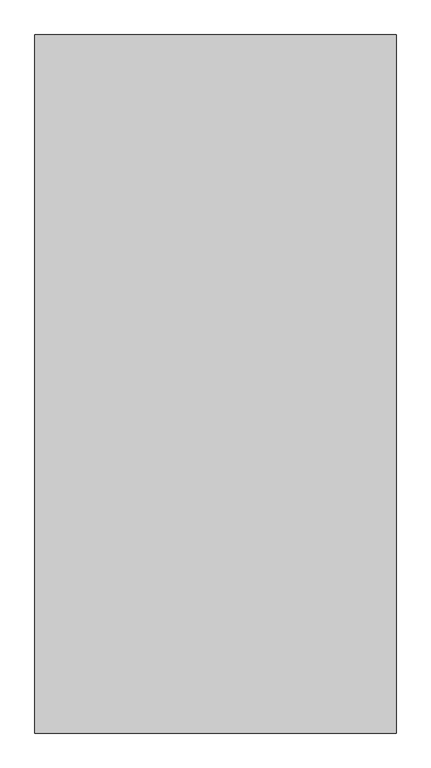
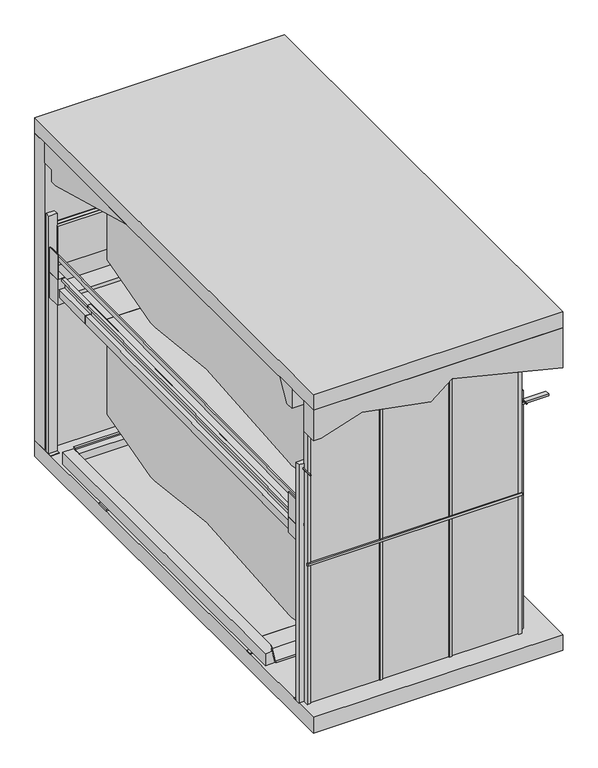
"""IFC4 building model written with IfcOpenShell, lengths in millimetres: proxy geometry, TrendVario 6200+ : TrendVario 6200+."""

from ifc_helpers import new_model, si_unit, point, frame, frame_2d, origin, origin_with_axes, place, context, project, spatial, polyline, circle_curve, trimmed, segment, composite_curve, outline, extrude, faceted_brep, source, transform, mapped, element, save
from ifc_brep_helpers import plane_surface, cylinder_surface, spline_surface, advanced_brep


def generic_models_2af5762d(model_context):
    return source(origin(), model_context, "Body", "SolidModel", [
        extrude(outline(composite_curve([segment(trimmed(circle_curve(frame_2d((2650.0, 5300.0602659)), 6.0), [point((2650.0, 5294.0602659))], [point((2650.0, 5306.0602659))], False, "CARTESIAN"), True, "CONTINUOUS"), segment(trimmed(circle_curve(frame_2d((2650.0, 5300.0602659)), 6.0), [point((2650.0, 5306.0602659))], [point((2650.0, 5294.0602659))], False, "CARTESIAN"), True, "CONTINUOUS")], self_intersect=False)), frame((0.0, 0.0, -150.0), z_axis=(0.0, 0.0, 1.0), x_axis=(1.0, 0.0, 0.0)), (0.0, 0.0, 1.0), 150.0),
        extrude(outline(composite_curve([segment(trimmed(circle_curve(frame_2d((50.0, 5300.0602653)), 6.0), [point((44.0, 5300.0602653))], [point((56.0, 5300.0602653))], False, "CARTESIAN"), True, "CONTINUOUS"), segment(trimmed(circle_curve(frame_2d((50.0, 5300.0602653)), 6.0), [point((56.0, 5300.0602653))], [point((44.0, 5300.0602653))], False, "CARTESIAN"), True, "CONTINUOUS")], self_intersect=False)), frame((0.0, 0.0, -150.0), z_axis=(0.0, 0.0, 1.0), x_axis=(1.0, 0.0, 0.0)), (0.0, 0.0, 1.0), 150.0),
        extrude(outline(composite_curve([segment(trimmed(circle_curve(frame_2d((2650.0, 170.0)), 6.0), [point((2650.0, 164.0))], [point((2650.0, 176.0))], False, "CARTESIAN"), True, "CONTINUOUS"), segment(trimmed(circle_curve(frame_2d((2650.0, 170.0)), 6.0), [point((2650.0, 176.0))], [point((2650.0, 164.0))], False, "CARTESIAN"), True, "CONTINUOUS")], self_intersect=False)), frame((0.0, 0.0, -150.0), z_axis=(0.0, 0.0, 1.0), x_axis=(1.0, 0.0, 0.0)), (0.0, 0.0, 1.0), 150.0),
        extrude(outline(composite_curve([segment(trimmed(circle_curve(frame_2d((50.0, 170.0)), 6.0), [point((44.0, 170.0))], [point((56.0, 170.0))], False, "CARTESIAN"), True, "CONTINUOUS"), segment(trimmed(circle_curve(frame_2d((50.0, 170.0)), 6.0), [point((56.0, 170.0))], [point((44.0, 170.0))], False, "CARTESIAN"), True, "CONTINUOUS")], self_intersect=False)), frame((0.0, 0.0, -150.0), z_axis=(0.0, 0.0, 1.0), x_axis=(1.0, 0.0, 0.0)), (0.0, 0.0, 1.0), 150.0),
        extrude(outline(composite_curve([segment(trimmed(circle_curve(frame_2d((2965.0, 2650.0)), 6.0), [point((2965.0, 2644.0))], [point((2965.0, 2656.0))], False, "CARTESIAN"), True, "CONTINUOUS"), segment(trimmed(circle_curve(frame_2d((2965.0, 2650.0)), 6.0), [point((2965.0, 2656.0))], [point((2965.0, 2644.0))], False, "CARTESIAN"), True, "CONTINUOUS")], self_intersect=False)), frame((0.0, -50.0, 0.0), z_axis=(0.0, 1.0, 0.0), x_axis=(0.0, 0.0, 1.0)), (0.0, 0.0, 1.0), 150.0),
        extrude(outline(composite_curve([segment(trimmed(circle_curve(frame_2d((2965.0, 50.0)), 6.0), [point((2965.0, 44.0))], [point((2965.0, 56.0))], False, "CARTESIAN"), True, "CONTINUOUS"), segment(trimmed(circle_curve(frame_2d((2965.0, 50.0)), 6.0), [point((2965.0, 56.0))], [point((2965.0, 44.0))], False, "CARTESIAN"), True, "CONTINUOUS")], self_intersect=False)), frame((0.0, -50.0, 0.0), z_axis=(0.0, 1.0, 0.0), x_axis=(0.0, 0.0, 1.0)), (0.0, 0.0, 1.0), 150.0),
        extrude(outline(composite_curve([segment(trimmed(circle_curve(frame_2d((2965.0, 50.0)), 6.0), [point((2965.0, 44.0))], [point((2965.0, 56.0))], False, "CARTESIAN"), True, "CONTINUOUS"), segment(trimmed(circle_curve(frame_2d((2965.0, 50.0)), 6.0), [point((2965.0, 56.0))], [point((2965.0, 44.0))], False, "CARTESIAN"), True, "CONTINUOUS")], self_intersect=False)), frame((0.0, 5369.5816653, 0.0), z_axis=(0.0, 1.0, 0.0), x_axis=(0.0, 0.0, 1.0)), (0.0, 0.0, 1.0), 150.0),
        extrude(outline(composite_curve([segment(trimmed(circle_curve(frame_2d((2965.0, 2650.0)), 6.0), [point((2965.0, 2644.0))], [point((2965.0, 2656.0))], False, "CARTESIAN"), True, "CONTINUOUS"), segment(trimmed(circle_curve(frame_2d((2965.0, 2650.0)), 6.0), [point((2965.0, 2656.0))], [point((2965.0, 2644.0))], False, "CARTESIAN"), True, "CONTINUOUS")], self_intersect=False)), frame((0.0, 5369.6045102, 0.0), z_axis=(0.0, 1.0, 0.0), x_axis=(0.0, 0.0, 1.0)), (0.0, 0.0, 1.0), 150.0),
        extrude(outline(polyline([(0.0, -60.0), (0.0, 0.0), (4430.0, 0.0), (4430.0, -60.0), (0.0, -60.0)])), frame((2611.0, 171.9869847, 2038.264563), z_axis=(0.0, -0.008726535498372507, 0.9999619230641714), x_axis=(0.0, 0.9999619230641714, 0.008726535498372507)), (0.0, 0.0, 1.0), 100.0),
        extrude(outline(polyline([(0.0, -19.0), (0.0, 0.0), (4440.0, 0.0), (4440.0, -19.0), (0.0, -19.0)])), frame((2663.0, 167.9116926, 2505.246781), z_axis=(0.0, -0.008726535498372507, 0.9999619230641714), x_axis=(0.0, 0.9999619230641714, 0.008726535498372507)), (0.0, 0.0, 1.0), 56.0),
        faceted_brep([(2600.0, 4599.8286538, 2304.9144337), (2643.0, 4599.8286538, 2304.9144337), (2643.0, 4600.0904499, 2274.915576), (2640.0, 4600.0904499, 2274.915576), (2640.0, 4599.8548334, 2301.9145479), (2603.0, 4599.8548334, 2301.9145479), (2603.0, 4602.6211451, 1984.9266183), (2548.0, 4602.6211451, 1984.9266183), (2548.0, 4602.210998, 2031.9248287), (2511.0, 4602.210998, 2031.9248287), (2511.0, 4602.1848184, 2034.9247145), (2551.0, 4602.1848184, 2034.9247145), (2551.0, 4602.5949655, 1987.9265041), (2600.0, 4602.5949655, 1987.9265041), (2603.0, 102.7924914, 1945.6572086), (2603.0, 100.0261796, 2262.6451382), (2640.0, 100.0261796, 2262.6451382), (2640.0, 100.2617961, 2235.6461663), (2643.0, 100.2617961, 2235.6461663), (2643.0, 100.0, 2265.645024), (2600.0, 100.0, 2265.645024), (2600.0, 102.7924914, 1945.6572086), (2600.0, 202.7886837, 1946.5298621), (2548.0, 202.7886837, 1946.5298621), (2548.0, 202.3785365, 1993.5280725), (2511.0, 202.3785365, 1993.5280725), (2511.0, 202.3523569, 1996.5279583), (2551.0, 202.3523569, 1996.5279583), (2551.0, 202.7625041, 1949.5297479), (2600.0, 202.7625041, 1949.5297479)], [[[0, 1, 2, 3, 4, 5, 6, 7, 8, 9, 10, 11, 12, 13]], [[14, 15, 16, 17, 18, 19, 20, 21]], [[1, 0, 20, 19]], [[2, 1, 19, 18]], [[3, 2, 18, 17]], [[4, 3, 17, 16]], [[5, 4, 16, 15]], [[6, 5, 15, 14]], [[7, 6, 14, 21, 22, 23]], [[8, 7, 23, 24]], [[9, 8, 24, 25]], [[10, 9, 25, 26]], [[11, 10, 26, 27]], [[12, 11, 27, 28]], [[13, 12, 28, 29]], [[0, 13, 29, 22, 21, 20]], [[22, 29, 28, 27, 26, 25, 24, 23]]]),
        extrude(outline(polyline([(2133.867435, 0.0), (2133.867435, -1000.0), (-1962.132565, -1000.0), (-1962.132565, 0.0), (2133.867435, 0.0)])), frame((1600.0, 2468.3986345, 2016.3034445), z_axis=(0.0, -0.008726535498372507, 0.9999619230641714), x_axis=(0.0, 0.9999619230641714, 0.008726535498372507)), (0.0, 0.0, 1.0), 8.0),
        extrude(outline(polyline([(0.0, -1500.0), (0.0, 0.0), (769.9999999, 0.0), (769.9999999, -1500.0), (0.0, -1500.0)])), frame((100.0, 4602.1898877, 2034.9247587), z_axis=(0.0, -0.008726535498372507, 0.9999619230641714), x_axis=(0.0, 0.9999619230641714, 0.008726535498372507)), (0.0, 0.0, 1.0), 8.0),
        extrude(outline(polyline([(5133.7158509, 2091.5652956), (5371.7067886, 2093.642211), (5372.0907561, 2049.6438864), (5369.0908704, 2049.6177068), (5368.7330824, 2090.6161457), (5136.7419163, 2088.5915894), (5137.0997042, 2047.5931506), (5134.0998185, 2047.566971), (5133.7158509, 2091.5652956)])), frame((100.0, 0.0, 0.0), z_axis=(1.0, 0.0, 0.0), x_axis=(0.0, 1.0, 0.0)), (0.0, 0.0, 1.0), 1500.0),
        extrude(outline(polyline([(319.9999999, 0.0), (319.9999999, -43.0), (289.9999999, -43.0), (289.9999999, -40.0), (317.0, -40.0), (317.0, -3.0), (0.0, -3.0), (0.0, 52.0), (46.9999999, 52.0), (46.9999999, 89.0), (49.9999999, 89.0), (49.9999999, 49.0), (2.9999999, 49.0), (2.9999999, 0.0), (319.9999999, 0.0)])), frame((100.0, 4602.6262144, 1984.9266626), z_axis=(0.0, 0.9999619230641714, 0.008726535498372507), x_axis=(0.0, -0.008726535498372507, 0.9999619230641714)), (0.0, 0.0, 1.0), 770.0),
        extrude(outline(polyline([(200.0, 8.0), (200.0, 0.0), (100.0, 0.0), (100.0, 3025.0), (160.0, 3025.0), (160.0, 8.0), (200.0, 8.0)])), frame((0.0, 0.0, 0.0), z_axis=(1.0, 0.0, 0.0), x_axis=(0.0, 1.0, 0.0)), (0.0, 0.0, 1.0), 100.0),
        faceted_brep([(0.0, 5249.9885779, 3650.0), (3001.0, 5249.9885779, 3650.0), (3001.0, 5249.9885779, 3500.0), (0.0, 5249.9885779, 3500.0), (0.0, 5399.9657348, 3650.0), (3001.0, 5399.9657348, 3650.0), (3001.0, 5167.6820669, 3500.0), (3001.0, 3699.9673137, 3900.0057953), (0.0, 3699.9885779, 3900.0), (0.0, 5167.6820669, 3500.0), (3001.0, 5399.9657348, 3900.0), (0.0, 5399.9657348, 3900.0)], [[[0, 1, 2, 3]], [[1, 0, 4, 5]], [[6, 7, 8, 9]], [[10, 7, 6, 2, 1, 5]], [[8, 11, 4, 0, 3, 9]], [[11, 10, 5, 4]], [[7, 10, 11, 8]], [[2, 6, 9, 3]]]),
        extrude(outline(polyline([(3511.8273555, 0.0), (3511.8273555, 90.0080034), (3672.5161926, 584.5573919), (3511.8273555, 1411.229794), (3719.8801857, 1665.5456754), (3386.9140261, 3001.0), (3900.0, 3001.0), (3900.0, 0.0), (3511.8273555, 0.0)])), frame((0.0, -200.0, 0.0), z_axis=(0.0, 1.0, 0.0), x_axis=(0.0, 0.0, 1.0)), (0.0, 0.0, 1.0), 200.0),
        extrude(outline(polyline([(100.0, 45.0), (100.0, 55.0), (2600.0, 55.0), (2600.0, 45.0), (100.0, 45.0)])), origin_with_axes(), (0.0, 0.0, 1.0), 3526.0),
        extrude(outline(polyline([(1798.6666667, 44.0), (1798.6666667, 35.0), (1768.6666667, 35.0), (1768.6666667, 44.0), (1798.6666667, 44.0)])), origin_with_axes(), (0.0, 0.0, 1.0), 3526.0),
        extrude(outline(polyline([(964.3333333, 44.0), (964.3333333, 35.0), (934.3333333, 35.0), (934.3333333, 44.0), (964.3333333, 44.0)])), origin_with_axes(), (0.0, 0.0, 1.0), 3526.0),
        extrude(outline(polyline([(0.0, -19.0), (0.0, 0.0), (5147.1058324, 0.0), (5147.1058324, -19.0), (0.0, -19.0)])), frame((37.0, 5302.7546227, 2550.0578764), z_axis=(0.0, -0.008726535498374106, 0.9999619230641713), x_axis=(0.0, -0.9999619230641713, -0.008726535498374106)), (0.0, 0.0, 1.0), 56.0),
        extrude(outline(polyline([(18.0, 5142.5968952), (7.0, 5142.5968952), (7.0, 5312.5968952), (18.0, 5312.5968952), (18.0, 5142.5968952)])), frame((0.0, 0.0, 2319.0), z_axis=(0.0, 0.0, 1.0), x_axis=(1.0, 0.0, 0.0)), (0.0, 0.0, 1.0), 310.0),
        extrude(outline(polyline([(2682.0, 5142.0602659), (2682.0, 5312.0602659), (2693.0, 5312.0602659), (2693.0, 5142.0602659), (2682.0, 5142.0602659)])), frame((0.0, 0.0, 2319.0), z_axis=(0.0, 0.0, 1.0), x_axis=(1.0, 0.0, 0.0)), (0.0, 0.0, 1.0), 310.0),
        advanced_brep(
        [(2678.3930268, 838.0907234, 21.8284597), (2678.3930268, 838.0907234, 173.2797049), (2600.0, 838.0907234, 173.2797049), (2560.0, 838.0907234, 21.8284597), (2678.3930268, 5057.0907234, 21.8284597), (2550.0, 5057.0907234, 21.8284597), (2550.0, 5057.0907234, 173.2797049), (2678.3930268, 5057.0907234, 173.2797049), (2550.0, 938.0907234, 173.2797049), (2550.0, 848.0907234, 21.8284597)],
        [
            (0, 1),
            (1, 2),
            (2, 3),
            (3, 0),
            (4, 5),
            (5, 6),
            (6, 7),
            (7, 4),
            (0, 4),
            (7, 1),
            (6, 8),
            (8, 2),
            (5, 9),
            (9, 8),
            (3, 9),
        ],
        [
            plane_surface(frame((2550.0, 838.0907234, 0.0), z_axis=(0.0, -1.0, 0.0), x_axis=(0.0, 0.0, 1.0))),
            plane_surface(frame((2550.0, 5057.0907234, 0.0), z_axis=(0.0, 1.0, 0.0), x_axis=(0.0, 0.0, 1.0))),
            plane_surface(frame((2678.3930268, 838.0907234, 21.8284597), z_axis=(1.0, 0.0, 0.0), x_axis=(0.0, 1.0, 0.0))),
            plane_surface(frame((2678.3930268, 838.0907234, 173.2797049), z_axis=(0.0, 0.0, 1.0), x_axis=(0.0, 1.0, 0.0))),
            plane_surface(frame((2550.0, 838.0907234, 173.2797049), z_axis=(-1.0, 0.0, 0.0), x_axis=(0.0, 1.0, 0.0))),
            plane_surface(frame((2550.0, 838.0907234, 21.8284597), z_axis=(0.0, 0.0, -1.0), x_axis=(0.0, 1.0, 0.0))),
            spline_surface(1, 1, [[(2550.0, 938.0907234, 173.2797049), (2600.0, 838.0907234, 173.2797049)], [(2550.0, 848.0907234, 21.8284597), (2560.0, 838.0907234, 21.8284597)]], [2, 2], [2, 2], [0.0, 1.0], [0.0, 1.0]),
        ],
        [
            (0, [[1, 2, 3, 4]]),
            (1, [[5, 6, 7, 8]]),
            (2, [[-1, 9, -8, 10]]),
            (3, [[-7, 11, 12, -2, -10]]),
            (4, [[-6, 13, 14, -11]]),
            (5, [[-5, -9, -4, 15, -13]]),
            (6, [[-3, -12, -14, -15]]),
        ],
    ),
        advanced_brep(
        [(22.4384321, 838.0907234, 173.2797049), (22.4384321, 838.0907234, 20.8412855), (140.0, 838.0907234, 20.8412855), (100.0, 838.0907234, 173.2797049), (150.0, 5057.0907234, 20.8412855), (22.4384321, 5057.0907234, 20.8412855), (22.4384321, 5057.0907234, 173.2797049), (150.0, 5057.0907234, 173.2797049), (150.0, 938.0907234, 173.2797049), (150.0, 848.0907234, 20.8412855)],
        [
            (0, 1),
            (1, 2),
            (2, 3),
            (3, 0),
            (4, 5),
            (5, 6),
            (6, 7),
            (7, 4),
            (7, 8),
            (8, 9),
            (9, 4),
            (6, 0),
            (3, 8),
            (5, 1),
            (9, 2),
        ],
        [
            plane_surface(frame((150.0, 838.0907234, 20.8412855), z_axis=(0.0, -1.0, 0.0), x_axis=(0.0, 0.0, 1.0))),
            plane_surface(frame((150.0, 5057.0907234, 20.8412855), z_axis=(0.0, 1.0, 0.0), x_axis=(0.0, 0.0, -1.0))),
            plane_surface(frame((150.0, 838.0907234, 20.8412855), z_axis=(1.0, 0.0, 0.0), x_axis=(0.0, 1.0, 0.0))),
            plane_surface(frame((150.0, 838.0907234, 173.2797049), z_axis=(0.0, 0.0, 1.0), x_axis=(0.0, 1.0, 0.0))),
            plane_surface(frame((22.4384321, 838.0907234, 173.2797049), z_axis=(-1.0, 0.0, 0.0), x_axis=(0.0, 1.0, 0.0))),
            plane_surface(frame((22.4384321, 838.0907234, 20.8412855), z_axis=(0.0, 0.0, -1.0), x_axis=(0.0, 1.0, 0.0))),
            spline_surface(1, 1, [[(150.0, 848.0907234, 20.8412855), (140.0, 838.0907234, 20.8412855)], [(150.0, 938.0907234, 173.2797049), (100.0, 838.0907234, 173.2797049)]], [2, 2], [2, 2], [0.0, 1.0], [0.0, 1.0]),
        ],
        [
            (0, [[1, 2, 3, 4]]),
            (1, [[5, 6, 7, 8]]),
            (2, [[-8, 9, 10, 11]]),
            (3, [[-7, 12, -4, 13, -9]]),
            (4, [[-1, -12, -6, 14]]),
            (5, [[-5, -11, 15, -2, -14]]),
            (6, [[-3, -15, -10, -13]]),
        ],
    ),
        extrude(outline(polyline([(5369.6045102, 0.0), (5270.0602659, 0.0), (5270.0602659, 8.0), (5310.0602659, 8.0), (5310.0602659, 3025.0), (5369.6045102, 3025.0), (5369.6045102, 0.0)])), frame((2600.0, 0.0, 0.0), z_axis=(1.0, 0.0, 0.0), x_axis=(0.0, 1.0, 0.0)), (0.0, 0.0, 1.0), 100.0),
        extrude(outline(polyline([(5269.5968952, 0.0), (5269.5968952, 8.0), (5309.5968952, 8.0), (5309.5968952, 3025.0), (5369.5968952, 3025.0), (5369.5968952, 0.0), (5269.5968952, 0.0)])), frame((0.0, 0.0, 0.0), z_axis=(1.0, 0.0, 0.0), x_axis=(0.0, 1.0, 0.0)), (0.0, 0.0, 1.0), 100.0),
        advanced_brep(
        [(650.0, 5220.0526533, 335.5997321), (650.0, 4313.3699728, 92.6548401), (650.0, 4224.7221662, 85.0351129), (650.0, 3145.3807126, 219.0), (650.0, 1424.180165, 85.3914386), (650.0, 1340.4923675, 90.5100035), (650.0, 220.4923675, 349.0823776), (650.0, 220.4923675, 1334.0), (650.0, 520.4923675, 1884.0), (650.0, 3620.0831131, 1884.0000002), (650.0, 5220.0526556, 1434.0085664), (2550.0, 220.4923675, 349.0823776), (2550.0, 1340.4923675, 90.5100035), (2550.0, 1424.180165, 85.3914386), (2550.0, 3145.3807126, 219.0), (2550.0, 4224.7221662, 85.0351129), (2550.0, 4313.3699728, 92.6548401), (2550.0, 5220.0526533, 335.5997321), (2550.0, 5220.0526556, 1434.0085664), (2550.0, 3620.0831131, 1884.0000002), (2550.0, 520.4923675, 1884.0), (2550.0, 220.4923675, 1334.0)],
        [
            (0, 1),
            (1, 2, circle_curve(frame((650.0, 4247.6299354, 338.0), z_axis=(-1.0, 0.0, 0.0), x_axis=(0.0, 1.0, 0.0)), 254.0)),
            (2, 3),
            (3, 4),
            (4, 5, circle_curve(frame((650.0, 1397.6299354, 338.0), z_axis=(-1.0, 0.0, 0.0), x_axis=(0.0, 1.0, 0.0)), 254.0)),
            (5, 6),
            (6, 7),
            (7, 8),
            (8, 9),
            (9, 10),
            (10, 0),
            (11, 12),
            (12, 13, circle_curve(frame((2550.0, 1397.6299354, 338.0), z_axis=(1.0, 0.0, 0.0), x_axis=(0.0, 1.0, 0.0)), 254.0)),
            (13, 14),
            (14, 15),
            (15, 16, circle_curve(frame((2550.0, 4247.6299354, 338.0), z_axis=(1.0, 0.0, 0.0), x_axis=(0.0, 1.0, 0.0)), 254.0)),
            (16, 17),
            (17, 18),
            (18, 19),
            (19, 20),
            (20, 21),
            (21, 11),
            (17, 0),
            (10, 18),
            (16, 1),
            (15, 2),
            (14, 3),
            (13, 4),
            (12, 5),
            (11, 6),
            (21, 7),
            (9, 19),
            (8, 20),
        ],
        [
            plane_surface(frame((650.0, 220.4923675, 0.0), z_axis=(-1.0, 0.0, 0.0), x_axis=(0.0, 0.0, 1.0))),
            plane_surface(frame((2550.0, 220.4923675, 0.0), z_axis=(1.0, 0.0, 0.0), x_axis=(0.0, 0.0, 1.0))),
            plane_surface(frame((650.0, 5220.0526533, 1105.8846371), z_axis=(0.0, 1.0, 0.0), x_axis=(1.0, 0.0, 0.0))),
            plane_surface(frame((650.0, 5220.0526533, 335.5997321), z_axis=(0.0, 0.25881904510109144, -0.9659258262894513), x_axis=(1.0, 0.0, 0.0))),
            cylinder_surface(frame((650.0, 4247.6299354, 338.0), z_axis=(-1.0, 0.0, 0.0), x_axis=(0.0, 1.0, 0.0)), 254.0),
            plane_surface(frame((650.0, 4224.7221662, 85.0351129), z_axis=(0.0, -0.12317213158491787, -0.992385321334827), x_axis=(1.0, 0.0, 0.0))),
            plane_surface(frame((650.0, 3145.3807126, 219.0), z_axis=(0.0, 0.07739239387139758, -0.9970007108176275), x_axis=(1.0, 0.0, 0.0))),
            cylinder_surface(frame((650.0, 1397.6299354, 338.0), z_axis=(-1.0, 0.0, 0.0), x_axis=(0.0, 1.0, 0.0)), 254.0),
            plane_surface(frame((650.0, 1340.4923675, 90.5100035), z_axis=(0.0, -0.22495105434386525, -0.9743700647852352), x_axis=(1.0, 0.0, 0.0))),
            plane_surface(frame((650.0, 220.4923675, 349.0823776), z_axis=(0.0, -1.0, 0.0), x_axis=(1.0, 0.0, 0.0))),
            plane_surface(frame((650.0, 3620.0831131, 1884.0000002), z_axis=(0.0, 0.27074557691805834, 0.9626509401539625), x_axis=(1.0, 0.0, 0.0))),
            plane_surface(frame((650.0, 620.4885622, 1884.0000002), z_axis=(0.0, 0.0, 1.0), x_axis=(1.0, 0.0, 0.0))),
            plane_surface(frame((650.0, 220.4923675, 1334.0), z_axis=(0.0, -0.8778955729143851, 0.478852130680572), x_axis=(1.0, 0.0, 0.0))),
        ],
        [
            (0, [[1, 2, 3, 4, 5, 6, 7, 8, 9, 10, 11]]),
            (1, [[12, 13, 14, 15, 16, 17, 18, 19, 20, 21, 22]]),
            (2, [[23, -11, 24, -18]]),
            (3, [[-1, -23, -17, 25]]),
            (4, [[-2, -25, -16, 26]]),
            (5, [[-3, -26, -15, 27]]),
            (6, [[-4, -27, -14, 28]]),
            (7, [[-5, -28, -13, 29]]),
            (8, [[-6, -29, -12, 30]]),
            (9, [[-7, -30, -22, 31]]),
            (10, [[-10, 32, -19, -24]]),
            (11, [[-20, -32, -9, 33]]),
            (12, [[-8, -31, -21, -33]]),
        ],
    ),
        advanced_brep(
        [(650.0080034, 219.0783305, 2530.0), (650.0080034, 212.7549246, 3254.5905482), (650.0080034, 507.9448535, 3807.0791047), (650.0080034, 614.5742843, 3808.0096456), (650.0080034, 616.0660458, 3810.8016825), (650.0080034, 3620.0751529, 3837.0172728), (650.0080034, 5220.0526533, 3400.9650555), (650.0080034, 5220.0602659, 2299.8475577), (650.0080034, 4315.7898833, 2049.0711861), (650.0080034, 4227.211946, 2040.6781608), (650.0080034, 3146.7425411, 2165.2190354), (650.0080034, 1426.7734714, 2016.5954437), (650.0080034, 1343.0441931, 2020.9835093), (650.0080034, 226.8699728, 2268.4333765), (650.0080034, 224.5873155, 2530.0), (2550.0080034, 507.9448535, 3807.0791047), (2550.0080034, 212.7549245, 3254.5905482), (2550.0080034, 219.0783305, 2530.0), (2550.0080034, 224.5873155, 2530.0), (2550.0080034, 226.8699728, 2268.4333765), (2550.0080034, 1343.0441931, 2020.9835093), (2550.0080034, 1426.7734714, 2016.5954437), (2550.0080034, 3146.7425411, 2165.2190354), (2550.0080034, 4227.211946, 2040.6781608), (2550.0080034, 4315.7898833, 2049.0711861), (2550.0080034, 5220.0602659, 2299.8475577), (2550.0080034, 5220.0526533, 3400.9650555), (2550.0080034, 3620.0751529, 3837.0172728), (2550.0080034, 616.0660458, 3810.8016825), (2550.0080034, 614.5742843, 3808.0096456)],
        [
            (0, 1),
            (1, 2),
            (2, 3),
            (3, 4),
            (4, 5),
            (5, 6),
            (6, 7),
            (7, 8),
            (8, 9, circle_curve(frame((650.0080034, 4247.9113358, 2293.8333213), z_axis=(-1.0, 6.846874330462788e-12, 0.0), x_axis=(6.846340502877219e-12, 0.9999619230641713, 0.008726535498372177)), 254.0)),
            (9, 10),
            (10, 11),
            (11, 12, circle_curve(frame((650.0080034, 1398.0198551, 2268.9626951), z_axis=(-1.0, 6.846874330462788e-12, 0.0), x_axis=(6.846340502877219e-12, 0.9999619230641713, 0.008726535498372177)), 254.0)),
            (12, 13),
            (13, 14),
            (14, 0),
            (15, 16),
            (16, 17),
            (17, 18),
            (18, 19),
            (19, 20),
            (20, 21, circle_curve(frame((2550.0080034, 1398.0198551, 2268.9626951), z_axis=(1.0, -6.846874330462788e-12, 0.0), x_axis=(6.846340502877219e-12, 0.9999619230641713, 0.008726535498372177)), 254.0)),
            (21, 22),
            (22, 23),
            (23, 24, circle_curve(frame((2550.0080034, 4247.9113358, 2293.8333213), z_axis=(1.0, -6.846874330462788e-12, 0.0), x_axis=(6.846340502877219e-12, 0.9999619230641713, 0.008726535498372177)), 254.0)),
            (24, 25),
            (25, 26),
            (26, 27),
            (27, 28),
            (28, 29),
            (29, 15),
            (2, 15),
            (29, 3),
            (1, 16),
            (17, 0),
            (14, 18),
            (4, 28),
            (27, 5),
            (26, 6),
            (25, 7),
            (24, 8),
            (23, 9),
            (22, 10),
            (21, 11),
            (20, 12),
            (19, 13),
        ],
        [
            plane_surface(frame((650.0080034, 428.8717402, 3900.0), z_axis=(-1.0, 6.846035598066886e-12, 0.0), x_axis=(0.0, 0.0, 1.0))),
            plane_surface(frame((2550.0080034, 428.8717402, 3900.0), z_axis=(1.0, -6.846035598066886e-12, 0.0), x_axis=(0.0, 0.0, 1.0))),
            plane_surface(frame((650.0080034, 507.9448535, 3807.0791047), z_axis=(0.0, -0.008726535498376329, 0.9999619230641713), x_axis=(1.0, -6.846035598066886e-12, 0.0))),
            plane_surface(frame((650.0080034, 212.7549246, 3254.5905482), z_axis=(-6.038215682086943e-12, -0.8820017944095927, 0.4712460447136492), x_axis=(1.0, -6.846035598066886e-12, 0.0))),
            plane_surface(frame((650.0080034, 4789.9238543, 2530.0), z_axis=(0.0, 0.0, -1.0), x_axis=(1.0, -6.845999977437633e-12, 0.0))),
            plane_surface(frame((650.0080034, 219.0783305, 2530.0), z_axis=(-6.845774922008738e-12, -0.9999619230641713, -0.008726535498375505), x_axis=(1.0, -6.846035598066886e-12, 0.0))),
            plane_surface(frame((650.0080034, 616.0660458, 3810.8016825), z_axis=(0.0, -0.008726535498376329, 0.9999619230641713), x_axis=(1.0, -6.845999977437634e-12, 0.0))),
            plane_surface(frame((650.0080034, 3620.0751529, 3837.0172728), z_axis=(1.8001286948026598e-12, 0.2629460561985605, 0.9648105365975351), x_axis=(1.0, -6.845999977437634e-12, 0.0))),
            plane_surface(frame((650.0080034, 320.8761169, 3258.313126), z_axis=(-6.0382156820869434e-12, -0.8820017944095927, 0.4712460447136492), x_axis=(1.0, -6.846035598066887e-12, 0.0))),
            plane_surface(frame((650.0080034, 5220.0526533, 3400.9650555), z_axis=(6.845999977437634e-12, 1.0, 0.0), x_axis=(1.0, -6.845999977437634e-12, 0.0))),
            plane_surface(frame((2550.0080034, 4315.7898833, 2049.0711861), z_axis=(1.7721223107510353e-12, 0.26723837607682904, -0.963630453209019), x_axis=(-1.0, 6.8459999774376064e-12, 0.0))),
            cylinder_surface(frame((2550.0080034, 4247.9113358, 2293.8333213), z_axis=(1.0, -6.846874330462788e-12, 0.0), x_axis=(6.846340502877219e-12, 0.9999619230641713, 0.008726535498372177)), 254.0),
            plane_surface(frame((2550.0080034, 3146.7425411, 2165.2190354), z_axis=(0.0, -0.11450735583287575, -0.9934224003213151), x_axis=(-1.0, 6.845999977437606e-12, 0.0))),
            plane_surface(frame((2550.0080034, 1426.7734714, 2016.5954437), z_axis=(0.0, 0.08608980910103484, -0.9962873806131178), x_axis=(-1.0, 6.845999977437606e-12, 0.0))),
            cylinder_surface(frame((2550.0080034, 1398.0198551, 2268.9626951), z_axis=(1.0, -6.846874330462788e-12, 0.0), x_axis=(6.846340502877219e-12, 0.9999619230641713, 0.008726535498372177)), 254.0),
            plane_surface(frame((2550.0080034, 226.8699728, 2268.4333765), z_axis=(-1.5398915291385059e-12, -0.21643961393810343, -0.9762960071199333), x_axis=(-1.0, 6.845999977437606e-12, 0.0))),
            plane_surface(frame((2550.0080034, 220.9776342, 2943.6285041), z_axis=(-6.8462590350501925e-12, -0.9999619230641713, -0.00872653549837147), x_axis=(-1.0, 6.845999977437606e-12, 0.0))),
        ],
        [
            (0, [[1, 2, 3, 4, 5, 6, 7, 8, 9, 10, 11, 12, 13, 14, 15]]),
            (1, [[16, 17, 18, 19, 20, 21, 22, 23, 24, 25, 26, 27, 28, 29, 30]]),
            (2, [[31, -30, 32, -3]]),
            (3, [[-2, 33, -16, -31]]),
            (4, [[34, -15, 35, -18]]),
            (5, [[-1, -34, -17, -33]]),
            (6, [[-5, 36, -28, 37]]),
            (7, [[-6, -37, -27, 38]]),
            (8, [[-36, -4, -32, -29]]),
            (9, [[-7, -38, -26, 39]]),
            (10, [[-25, 40, -8, -39]]),
            (11, [[-24, 41, -9, -40]]),
            (12, [[-23, 42, -10, -41]]),
            (13, [[-22, 43, -11, -42]]),
            (14, [[-21, 44, -12, -43]]),
            (15, [[-20, 45, -13, -44]]),
            (16, [[-45, -19, -35, -14]]),
        ],
    ),
        extrude(outline(polyline([(1798.6666667, 35.0), (1768.6666667, 35.0), (1768.6666667, 44.0), (1798.6666667, 44.0), (1798.6666667, 35.0)])), origin_with_axes(), (0.0, 0.0, 1.0), 3526.0),
        extrude(outline(polyline([(964.3333333, 35.0), (934.3333333, 35.0), (934.3333333, 44.0), (964.3333333, 44.0), (964.3333333, 35.0)])), origin_with_axes(), (0.0, 0.0, 1.0), 3526.0),
        extrude(outline(polyline([(3001.0, 153.0), (3001.0, 100.0), (97.0, 100.0), (97.0, 153.0), (3001.0, 153.0)])), frame((0.0, 0.0, 2854.0), z_axis=(0.0, 0.0, 1.0), x_axis=(1.0, 0.0, 0.0)), (0.0, 0.0, 1.0), 25.0),
        extrude(outline(polyline([(97.0, 5319.5968952), (97.0, 5369.5968952), (3001.0, 5369.5968952), (3001.0, 5319.5968952), (97.0, 5319.5968952)])), frame((0.0, 0.0, 2854.0), z_axis=(0.0, 0.0, 1.0), x_axis=(1.0, 0.0, 0.0)), (0.0, 0.0, 1.0), 25.0),
        extrude(outline(polyline([(700.0, 5369.6045096), (700.0, 5284.6045096), (100.0, 5284.6045096), (100.0, 5369.6045096), (700.0, 5369.6045096)])), frame((0.0, 0.0, 2379.0), z_axis=(0.0, 0.0, 1.0), x_axis=(1.0, 0.0, 0.0)), (0.0, 0.0, 1.0), 500.0),
        extrude(outline(polyline([(250.0, 3650.0), (250.0, 3900.0), (500.0, 3900.0), (349.6363636, 3650.0), (250.0, 3650.0)])), frame((0.0, 0.0, 0.0), z_axis=(1.0, 0.0, 0.0), x_axis=(0.0, 1.0, 0.0)), (0.0, 0.0, 1.0), 3001.0),
        extrude(outline(polyline([(60.0, 32.0), (60.0, 100.0), (2640.0, 100.0), (2640.0, 32.0), (60.0, 32.0)])), frame((0.0, 0.0, 3526.0), z_axis=(0.0, 0.0, 1.0), x_axis=(1.0, 0.0, 0.0)), (0.0, 0.0, 1.0), 74.0),
        extrude(outline(polyline([(60.0, 20.0), (60.0, 34.0), (2640.0, 34.0), (2640.0, 20.0), (60.0, 20.0)])), frame((0.0, 0.0, 1763.0), z_axis=(0.0, 0.0, 1.0), x_axis=(1.0, 0.0, 0.0)), (0.0, 0.0, 1.0), 30.0),
        extrude(outline(polyline([(2640.0, 32.0), (2600.0, 32.0), (2600.0, 100.0), (2640.0, 100.0), (2640.0, 32.0)])), origin_with_axes(), (0.0, 0.0, 1.0), 3526.0),
        extrude(outline(polyline([(100.0, 32.0), (60.0, 32.0), (60.0, 100.0), (100.0, 100.0), (100.0, 32.0)])), origin_with_axes(), (0.0, 0.0, 1.0), 3526.0),
        extrude(outline(polyline([(0.0, -19.0), (0.0, 0.0), (702.4860602, 0.0), (702.4860602, -19.0), (0.0, -19.0)])), frame((2682.0, 5310.2019427, 2550.1228682), z_axis=(0.0, -0.008726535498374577, 0.9999619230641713), x_axis=(0.0, -0.9999619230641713, -0.008726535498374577)), (0.0, 0.0, 1.0), 56.0),
        extrude(outline(polyline([(0.0, -59.9999949), (0.0, 0.0), (622.0497333, 0.0), (622.0497333, -59.9999949), (0.0, -59.9999949)])), frame((2610.9999948, 4601.8183039, 2076.9231152), z_axis=(0.0, -0.00872653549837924, 0.9999619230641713), x_axis=(0.0, 0.9999619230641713, 0.00872653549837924)), (0.0, 0.0, 1.0), 100.0),
        extrude(outline(polyline([(0.0, -60.0), (0.0, 0.0), (4430.0, 0.0), (4430.0, -60.0), (0.0, -60.0)])), frame((29.0, 171.9869847, 2038.264563), z_axis=(0.0, -0.008726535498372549, 0.9999619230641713), x_axis=(0.0, 0.9999619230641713, 0.008726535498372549)), (0.0, 0.0, 1.0), 100.0),
        extrude(outline(polyline([(0.0, -60.0), (0.0, 0.0), (585.0, 0.0), (585.0, -60.0), (0.0, -60.0)])), frame((29.0, 4601.8233732, 2076.9231595), z_axis=(0.0, -0.008726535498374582, 0.9999619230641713), x_axis=(0.0, 0.9999619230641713, 0.008726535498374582)), (0.0, 0.0, 1.0), 100.0),
        extrude(outline(polyline([(5312.0602659, 1991.0934303), (5142.0602659, 1989.6098628), (5142.0602659, 2314.0), (5312.0602659, 2314.0), (5312.0602659, 1991.0934303)])), frame((2603.0, 0.0, 0.0), z_axis=(1.0, 0.0, 0.0), x_axis=(0.0, 1.0, 0.0)), (0.0, 0.0, 1.0), 90.0),
        extrude(outline(polyline([(5142.5968952, 1989.6145459), (5142.5968952, 2314.0), (5312.5968952, 2314.0), (5312.5968952, 1991.0981134), (5142.5968952, 1989.6145459)])), frame((7.0, 0.0, 0.0), z_axis=(1.0, 0.0, 0.0), x_axis=(0.0, 1.0, 0.0)), (0.0, 0.0, 1.0), 90.0),
        extrude(outline(polyline([(7.0, 160.0), (7.0, 330.0), (18.0, 330.0), (18.0, 160.0), (7.0, 160.0)])), frame((0.0, 0.0, 2229.0), z_axis=(0.0, 0.0, 1.0), x_axis=(1.0, 0.0, 0.0)), (0.0, 0.0, 1.0), 315.0),
        extrude(outline(polyline([(7.0, 160.0), (7.0, 330.0), (97.0, 330.0), (97.0, 160.0), (7.0, 160.0)])), frame((0.0, 0.0, 2029.0), z_axis=(0.0, 0.0, 1.0), x_axis=(1.0, 0.0, 0.0)), (0.0, 0.0, 1.0), 195.0),
        extrude(outline(polyline([(2693.0, 330.0), (2693.0, 160.0), (2682.0, 160.0), (2682.0, 330.0), (2693.0, 330.0)])), frame((0.0, 0.0, 2229.0), z_axis=(0.0, 0.0, 1.0), x_axis=(1.0, 0.0, 0.0)), (0.0, 0.0, 1.0), 315.0),
        extrude(outline(polyline([(2693.0, 330.0), (2693.0, 160.0), (2603.0, 160.0), (2603.0, 330.0), (2693.0, 330.0)])), frame((0.0, 0.0, 2029.0), z_axis=(0.0, 0.0, 1.0), x_axis=(1.0, 0.0, 0.0)), (0.0, 0.0, 1.0), 195.0),
        extrude(outline(polyline([(100.0, 0.0), (100.0, 3025.0), (160.0, 3025.0), (160.0, 8.0), (200.0, 8.0), (200.0, 0.0), (100.0, 0.0)])), frame((2600.0, 0.0, 0.0), z_axis=(1.0, 0.0, 0.0), x_axis=(0.0, 1.0, 0.0)), (0.0, 0.0, 1.0), 100.0),
        extrude(outline(polyline([(2603.0, 5372.5968952), (2603.0, 5319.5968952), (97.0, 5319.5968952), (97.0, 5372.5968952), (2603.0, 5372.5968952)])), frame((0.0, 0.0, 2854.0), z_axis=(0.0, 0.0, 1.0), x_axis=(1.0, 0.0, 0.0)), (0.0, 0.0, 1.0), 25.0),
        extrude(outline(polyline([(2603.0, 140.0), (2603.0, 87.0), (100.0, 87.0), (100.0, 140.0), (2603.0, 140.0)])), frame((0.0, 0.0, 2854.0), z_axis=(0.0, 0.0, 1.0), x_axis=(1.0, 0.0, 0.0)), (0.0, 0.0, 1.0), 25.0),
        extrude(outline(polyline([(0.0, 1119.5968952), (0.0, 1179.5968952), (3001.0, 1179.5968952), (3001.0, 1119.5968952), (0.0, 1119.5968952)])), origin_with_axes(), (0.0, 0.0, 1.0), 15.0),
        extrude(outline(polyline([(0.0, 4119.5968952), (0.0, 4265.5968952), (3001.0, 4265.5968952), (3001.0, 4119.5968952), (0.0, 4119.5968952)])), origin_with_axes(), (0.0, 0.0, 1.0), 15.0),
        extrude(outline(polyline([(3001.0, 5399.9657348), (0.0, 5399.9657348), (0.0, 5599.9961923), (3001.0, 5599.9961923), (3001.0, 5399.9657348)])), origin_with_axes(), (0.0, 0.0, 1.0), 3900.0),
        faceted_brep([(100.0, 4599.8336906, 2304.9182049), (100.0, 4602.6000023, 1987.9302753), (149.0, 4602.6000023, 1987.9302753), (149.0, 4602.1898551, 2034.9284857), (189.0, 4602.1898551, 2034.9284857), (189.0, 4602.2160348, 2031.9285999), (152.0, 4602.2160348, 2031.9285999), (152.0, 4602.6261819, 1984.9303895), (97.0, 4602.6261819, 1984.9303895), (97.0, 4599.8598702, 2301.9183191), (60.0, 4599.8598702, 2301.9183191), (60.0, 4600.0954866, 2274.9193472), (57.0, 4600.0954866, 2274.9193472), (57.0, 4599.8336906, 2304.9182049), (100.0, 100.0, 1945.6365661), (100.0, 97.2075086, 2265.6243815), (57.0, 97.2075086, 2265.6243815), (57.0, 97.4693047, 2235.6255238), (60.0, 97.4693047, 2235.6255238), (60.0, 97.2336882, 2262.6244957), (97.0, 97.2336882, 2262.6244957), (97.0, 100.0, 1945.6365661), (100.0, 199.9961923, 1946.5092197), (100.0, 199.9700127, 1949.5091054), (149.0, 199.9700127, 1949.5091054), (149.0, 199.5598655, 1996.5073158), (189.0, 199.5598655, 1996.5073158), (189.0, 199.5860451, 1993.50743), (152.0, 199.5860451, 1993.50743), (152.0, 199.9961923, 1946.5092197)], [[[0, 1, 2, 3, 4, 5, 6, 7, 8, 9, 10, 11, 12, 13]], [[14, 15, 16, 17, 18, 19, 20, 21]], [[1, 0, 15, 14, 22, 23]], [[2, 1, 23, 24]], [[3, 2, 24, 25]], [[4, 3, 25, 26]], [[5, 4, 26, 27]], [[6, 5, 27, 28]], [[7, 6, 28, 29]], [[8, 7, 29, 22, 14, 21]], [[9, 8, 21, 20]], [[10, 9, 20, 19]], [[11, 10, 19, 18]], [[12, 11, 18, 17]], [[13, 12, 17, 16]], [[0, 13, 16, 15]], [[23, 22, 29, 28, 27, 26, 25, 24]]]),
        extrude(outline(polyline([(506.3333687, 2021.7621074), (506.6824301, 1981.7636305), (503.6825444, 1981.7374509), (503.3596625, 2018.736042), (261.7372106, 2016.6274348), (105.9840281, 1973.4332545), (112.3977491, 1950.3061236), (133.5976191, 1956.1853679), (134.3993342, 1953.2944765), (110.3085729, 1946.6135171), (102.2914216, 1975.5224307), (261.3160886, 2019.623874), (506.3333687, 2021.7621074)])), frame((100.0, 0.0, 0.0), z_axis=(1.0, 0.0, 0.0), x_axis=(0.0, 1.0, 0.0)), (0.0, 0.0, 1.0), 2500.0),
        extrude(outline(polyline([(3001.0, -200.0), (0.0, -200.0), (0.0, 5599.9961923), (3001.0, 5599.9961923), (3001.0, -200.0)])), frame((0.0, 0.0, -200.0), z_axis=(0.0, 0.0, 1.0), x_axis=(1.0, 0.0, 0.0)), (0.0, 0.0, 1.0), 200.0),
        extrude(outline(polyline([(3001.0, -200.0), (0.0, -200.0), (0.0, 5600.5968952), (3001.0, 5600.5968952), (3001.0, -200.0)])), frame((0.0, 0.0, 3900.0), z_axis=(0.0, 0.0, 1.0), x_axis=(1.0, 0.0, 0.0)), (0.0, 0.0, 1.0), 200.0),
        extrude(outline(polyline([(319.9719044, 0.0), (2.9719045, 0.0), (2.9719045, -49.0), (49.9719044, -49.0), (49.9719044, -89.0), (46.9719044, -89.0), (46.9719044, -52.0), (-0.0280956, -52.0), (-0.0280956, 3.0), (316.9719044, 3.0), (316.9719044, 40.0), (289.9719044, 40.0), (289.9719044, 43.0), (319.9719044, 43.0), (319.9719044, 0.0)])), frame((2600.0, 4602.6209, 1984.9303434), z_axis=(0.0, 0.9999619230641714, 0.008726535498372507), x_axis=(0.0, -0.008726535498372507, 0.9999619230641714)), (0.0, 0.0, 1.0), 770.0052822),
        extrude(outline(polyline([(100.4126792, 0.0), (100.4126792, -767.6410141), (-899.5873208, -767.6410141), (-899.5873208, 0.0), (100.4126792, 0.0)])), frame((2499.5873208, 5369.3942892, 2041.6200501), z_axis=(0.0, -0.008726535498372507, 0.9999619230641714), x_axis=(1.0, 0.0, 0.0)), (0.0, 0.0, 1.0), 8.0),
        extrude(outline(polyline([(5037.0953055, 61.9124781), (5034.8282574, 36.0), (4939.0907234, 36.0), (4939.0907234, 179.0), (5026.0907234, 179.0), (5026.0907234, 194.0), (5057.0907234, 194.0), (5057.0907234, 191.0), (5029.0907234, 191.0), (5029.0907234, 176.0), (4942.0907234, 176.0), (4942.0907234, 39.0), (5032.0792639, 39.0), (5034.1067214, 62.1739453), (5037.0953055, 61.9124781)])), frame((150.0, 0.0, 0.0), z_axis=(1.0, 0.0, 0.0), x_axis=(0.0, 1.0, 0.0)), (0.0, 0.0, 1.0), 2400.0),
        extrude(outline(polyline([(4329.2949793, 97.0604952), (4239.0907234, 97.0604952), (4239.0907234, 132.0604952), (4258.9285037, 186.5643505), (4264.5666594, 184.5122296), (4245.0907234, 131.0025334), (4245.0907234, 103.0604952), (4329.2949793, 103.0604952), (4329.2949793, 97.0604952)])), frame((1599.0959702, 0.0, 0.0), z_axis=(1.0, 0.0, 0.0), x_axis=(0.0, 1.0, 0.0)), (0.0, 0.0, 1.0), 950.9040298),
        extrude(outline(polyline([(1238.4657342, 84.0), (1238.4657342, 44.0), (1235.4657342, 44.0), (1235.4657342, 81.0), (993.8340817, 81.0), (837.7098942, 39.16665), (843.9215513, 15.9844302), (865.1719195, 21.6784492), (865.9483766, 18.7806717), (841.800231, 12.3101956), (834.0356596, 41.2879704), (993.4391242, 84.0), (1238.4657342, 84.0)])), frame((150.0, 0.0, 0.0), z_axis=(1.0, 0.0, 0.0), x_axis=(0.0, 1.0, 0.0)), (0.0, 0.0, 1.0), 2400.0),
        extrude(outline(polyline([(150.0, 1238.4657342), (150.0, 4939.0907234), (2550.0, 4939.0907234), (2550.0, 1238.4657342), (150.0, 1238.4657342)])), frame((0.0, 0.0, 79.0), z_axis=(0.0, 0.0, 1.0), x_axis=(1.0, 0.0, 0.0)), (0.0, 0.0, 1.0), 5.0),
        extrude(outline(polyline([(5371.6762983, 2093.6456722), (5372.0602659, 2049.6473476), (5369.0603801, 2049.621168), (5368.7025922, 2090.6196068), (5136.711426, 2088.5950506), (5137.069214, 2047.5966117), (5134.0693282, 2047.5704321), (5133.6853606, 2091.5687567), (5371.6762983, 2093.6456722)])), frame((1600.0, 0.0, 0.0), z_axis=(1.0, 0.0, 0.0), x_axis=(0.0, 1.0, 0.0)), (0.0, 0.0, 1.0), 1000.0),
        extrude(outline(polyline([(2038.9337722, 0.0), (2038.9337722, -1500.0), (-2056.8816536, -1500.0), (-2056.8816536, 0.0), (2038.9337722, 0.0)])), frame((1600.0, 2545.3865539, 2016.9753079), z_axis=(0.0, -0.008726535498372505, 0.9999619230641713), x_axis=(0.0, -0.9999619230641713, -0.008726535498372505)), (0.0, 0.0, 1.0), 8.0),
    ])


if __name__ == "__main__":
    model = new_model("IFC4")
    model_context = context("Model", 3, world=origin())
    ifc_project = project(units=[si_unit("LENGTHUNIT", "METRE", prefix="MILLI")], contexts=[model_context])
    site = spatial("IfcSite", under=ifc_project)
    building = spatial("IfcBuilding", under=site)
    placement = place(None, origin())
    generic_models_shape = generic_models_2af5762d(model_context)
    element("IfcBuildingElementProxy", 1, Name="TrendVario 6200+ : TrendVario 6200+", ObjectType="TrendVario 6200+ : TrendVario 6200+", at=placement, inside=building, context=model_context, shape_type="MappedRepresentation", body=[
        mapped(generic_models_shape, transform((0.0, 0.0, 0.0), x_axis=(1.0, 0.0, 0.0), y_axis=(0.0, 1.0, 0.0), z_axis=(0.0, 0.0, 1.0))),
    ])
    save(model, "model.ifc")
